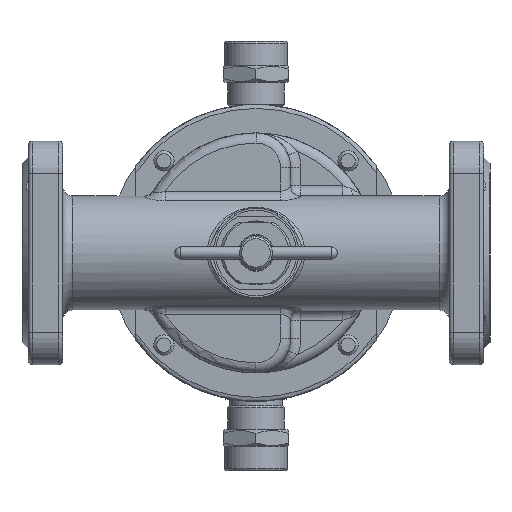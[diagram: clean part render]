
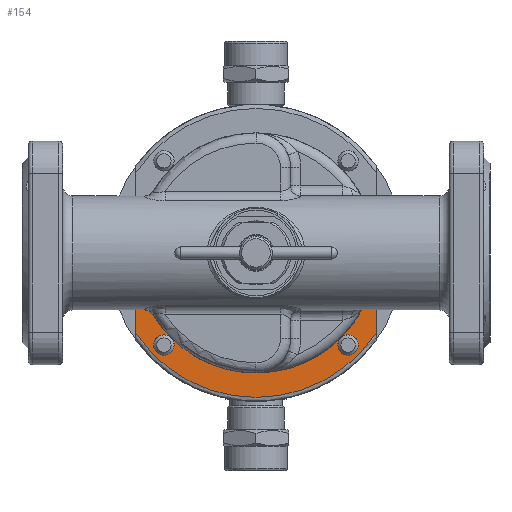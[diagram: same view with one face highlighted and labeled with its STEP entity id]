
A CAD part, front view. The second image highlights one B-rep face of the part: STEP entity #154.
In plain terms, the highlighted planar face has unit normal (0, -1, 0).
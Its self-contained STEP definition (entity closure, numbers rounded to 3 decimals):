
#154=ADVANCED_FACE('',(#4392),#4394,.F.);
#4392=FACE_OUTER_BOUND('',#4393,.T.);
#4393=EDGE_LOOP('',(#21517,#21518,#21519,#21520,#21521,#21522,#21523,#21524,#21525,
#21526));
#4394=PLANE('',#4395);
#4395=AXIS2_PLACEMENT_3D('',#4396,#4397,#4398);
#4396=CARTESIAN_POINT('',(0.,39.5,0.));
#4397=DIRECTION('',(0.,1.,0.));
#4398=DIRECTION('',(-1.,0.,0.));
#21517=ORIENTED_EDGE('',*,*,#32949,.F.);
#21518=ORIENTED_EDGE('',*,*,#32950,.F.);
#21519=ORIENTED_EDGE('',*,*,#32850,.F.);
#21520=ORIENTED_EDGE('',*,*,#32872,.F.);
#21521=ORIENTED_EDGE('',*,*,#32951,.F.);
#21522=ORIENTED_EDGE('',*,*,#32864,.F.);
#21523=ORIENTED_EDGE('',*,*,#32852,.F.);
#21524=ORIENTED_EDGE('',*,*,#32952,.F.);
#21525=ORIENTED_EDGE('',*,*,#32953,.F.);
#21526=ORIENTED_EDGE('',*,*,#32851,.F.);
#32850=EDGE_CURVE('',#37772,#37860,#37861,.T.);
#32851=EDGE_CURVE('',#37860,#37862,#37863,.T.);
#32852=EDGE_CURVE('',#37862,#37766,#37864,.T.);
#32864=EDGE_CURVE('',#37766,#37885,#37886,.T.);
#32872=EDGE_CURVE('',#37898,#37772,#37900,.T.);
#32949=EDGE_CURVE('',#38024,#37860,#38025,.T.);
#32950=EDGE_CURVE('',#37860,#38024,#38026,.T.);
#32951=EDGE_CURVE('',#37885,#37898,#38027,.T.);
#32952=EDGE_CURVE('',#38028,#37862,#38029,.T.);
#32953=EDGE_CURVE('',#37862,#38028,#38030,.T.);
#37766=VERTEX_POINT('',#45969);
#37772=VERTEX_POINT('',#45983);
#37860=VERTEX_POINT('',#46237);
#37861=CIRCLE('',#46238,59.);
#37862=VERTEX_POINT('',#46242);
#37863=CIRCLE('',#46243,59.);
#37864=CIRCLE('',#46247,59.);
#37885=VERTEX_POINT('',#46395);
#37886=LINE('',#46396,#46397);
#37898=VERTEX_POINT('',#46527);
#37900=LINE('',#46583,#46584);
#38024=VERTEX_POINT('',#47084);
#38025=CIRCLE('',#47085,5.);
#38026=CIRCLE('',#47089,5.);
#38027=CIRCLE('',#47093,71.);
#38028=VERTEX_POINT('',#47097);
#38029=CIRCLE('',#47098,5.);
#38030=CIRCLE('',#47102,5.);
#45969=CARTESIAN_POINT('',(59.,39.5,0.));
#45983=CARTESIAN_POINT('',(-59.,39.5,0.));
#46237=CARTESIAN_POINT('',(-41.719,39.5,-41.719));
#46238=AXIS2_PLACEMENT_3D('',#46239,#46240,#46241);
#46239=CARTESIAN_POINT('',(0.,39.5,0.));
#46240=DIRECTION('',(0.,-1.,0.));
#46241=DIRECTION('',(-1.,0.,0.));
#46242=CARTESIAN_POINT('',(41.719,39.5,-41.719));
#46243=AXIS2_PLACEMENT_3D('',#46244,#46245,#46246);
#46244=CARTESIAN_POINT('',(0.,39.5,0.));
#46245=DIRECTION('',(0.,-1.,0.));
#46246=DIRECTION('',(-0.707,0.,-0.707));
#46247=AXIS2_PLACEMENT_3D('',#46248,#46249,#46250);
#46248=CARTESIAN_POINT('',(0.,39.5,0.));
#46249=DIRECTION('',(0.,-1.,0.));
#46250=DIRECTION('',(0.707,0.,-0.707));
#46395=CARTESIAN_POINT('',(59.,39.5,-39.497));
#46396=CARTESIAN_POINT('',(59.,39.5,0.));
#46397=VECTOR('',#46398,1.);
#46398=DIRECTION('',(0.,0.,-1.));
#46527=CARTESIAN_POINT('',(-59.,39.5,-39.497));
#46583=CARTESIAN_POINT('',(-59.,39.5,-39.497));
#46584=VECTOR('',#46585,1.);
#46585=DIRECTION('',(0.,0.,1.));
#47084=CARTESIAN_POINT('',(-45.255,39.5,-50.255));
#47085=AXIS2_PLACEMENT_3D('',#47086,#47087,#47088);
#47086=CARTESIAN_POINT('',(-45.255,39.5,-45.255));
#47087=DIRECTION('',(0.,-1.,0.));
#47088=DIRECTION('',(0.,0.,-1.));
#47089=AXIS2_PLACEMENT_3D('',#47090,#47091,#47092);
#47090=CARTESIAN_POINT('',(-45.255,39.5,-45.255));
#47091=DIRECTION('',(0.,-1.,0.));
#47092=DIRECTION('',(0.707,0.,0.707));
#47093=AXIS2_PLACEMENT_3D('',#47094,#47095,#47096);
#47094=CARTESIAN_POINT('',(0.,39.5,0.));
#47095=DIRECTION('',(0.,1.,0.));
#47096=DIRECTION('',(0.831,0.,-0.556));
#47097=CARTESIAN_POINT('',(50.255,39.5,-45.255));
#47098=AXIS2_PLACEMENT_3D('',#47099,#47100,#47101);
#47099=CARTESIAN_POINT('',(45.255,39.5,-45.255));
#47100=DIRECTION('',(0.,-1.,0.));
#47101=DIRECTION('',(1.,0.,0.));
#47102=AXIS2_PLACEMENT_3D('',#47103,#47104,#47105);
#47103=CARTESIAN_POINT('',(45.255,39.5,-45.255));
#47104=DIRECTION('',(0.,-1.,0.));
#47105=DIRECTION('',(-0.707,0.,0.707));
